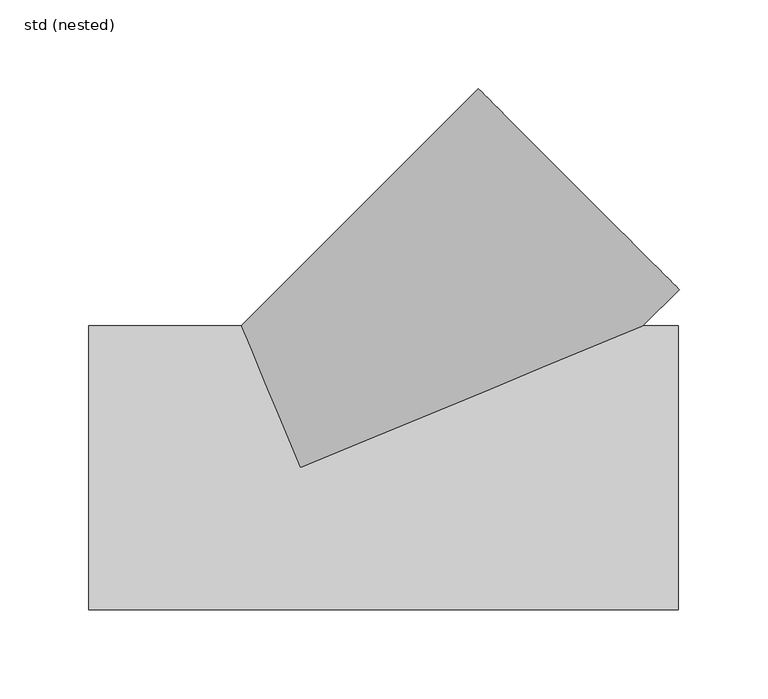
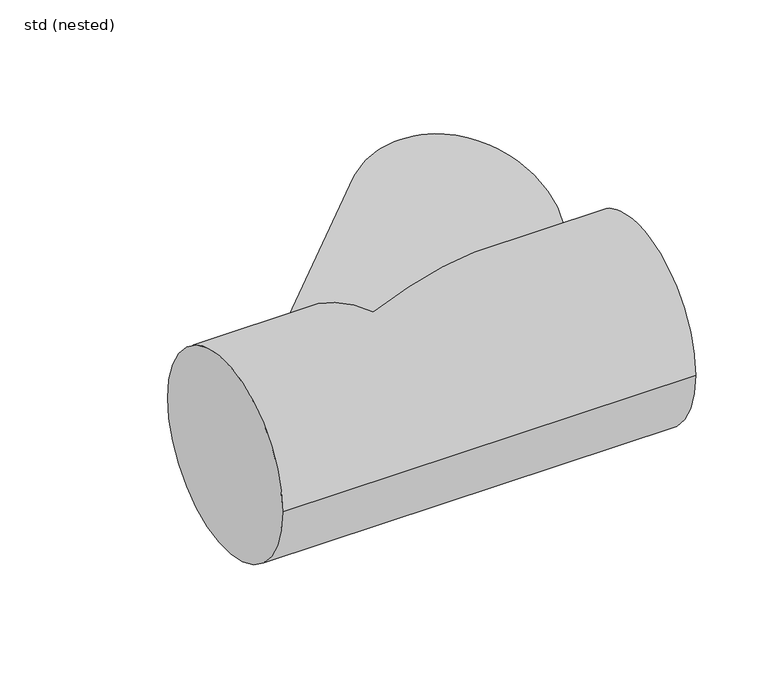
"""IFC4 building model written with IfcOpenShell, lengths in millimetres: pipe fitting geometry, ZZZ_do not use_PIF_ST_UN_ACO pipe branch_ACO : std (nested)."""

import ifcopenshell
import ifcopenshell.guid

model = None  # the IFC model being written
_history = None  # IfcOwnerHistory: only IFC2X3 demands one
_inside = {}  # id of a spatial element -> (the spatial element, [elements in it])
_under = {}  # id of a project, library or spatial element -> (it, [spatial elements below it])
_declared = {}  # id of a project -> (the project, [libraries it declares])
_typed = {}  # id of a type object -> (the type object, [elements of that type])
_made_of = {}  # id of a material, layer set ... -> (it, [elements and type objects made of it])


def new_model(schema):
    """Start an empty IFC model of exactly this schema.

    Asked for "IFC4X3", IfcOpenShell would pick the latest addendum, in which some entities
    have other attributes; the version numbers below select the first issue.
    IFC2X3 requires an IfcOwnerHistory on every rooted entity: one is made here for all.
    """
    global model, _history
    if schema == "IFC4X3":
        model = ifcopenshell.file(schema_version=(4, 3, 0, 0))
    else:
        model = ifcopenshell.file(schema=schema)
    _inside.clear()
    _under.clear()
    _declared.clear()
    _typed.clear()
    _made_of.clear()
    _history = None
    if model.schema == "IFC2X3":
        org = make("IfcOrganization", Name="unknown")
        user = make(
            "IfcPersonAndOrganization",
            ThePerson=make("IfcPerson", FamilyName="unknown"),
            TheOrganization=org,
        )
        app = make(
            "IfcApplication",
            ApplicationDeveloper=org,
            Version="unknown",
            ApplicationFullName="unknown",
            ApplicationIdentifier="unknown",
        )
        _history = make(
            "IfcOwnerHistory",
            OwningUser=user,
            OwningApplication=app,
            ChangeAction="ADDED",
            CreationDate=0,
        )
    return model


def make(cls, **values):
    """One entity of the class cls with the attributes given. An attribute that is None is left unset."""
    return model.create_entity(
        cls, **{name: value for name, value in values.items() if value is not None}
    )


def rooted(cls, **values):
    """An entity with a GlobalId (a new one), such as an element, a storey or a relation."""
    return make(cls, GlobalId=ifcopenshell.guid.new(), OwnerHistory=_history, **values)


def si_unit(unit_type, name, prefix=None):
    """IfcSIUnit, for example si_unit("LENGTHUNIT", "METRE", prefix="MILLI")."""
    return make("IfcSIUnit", UnitType=unit_type, Prefix=prefix, Name=name)


def assignment(units):
    """IfcUnitAssignment: the units of a project."""
    return None if units is None else make("IfcUnitAssignment", Units=units)


def point(xyz):
    """IfcCartesianPoint."""
    return None if xyz is None else make("IfcCartesianPoint", Coordinates=xyz)


def direction(xyz):
    """IfcDirection."""
    return None if xyz is None else make("IfcDirection", DirectionRatios=xyz)


def frame(location, z_axis=None, x_axis=None):
    """IfcAxis2Placement3D, a coordinate frame: its origin and axes. An axis left out is left unset."""
    return make(
        "IfcAxis2Placement3D",
        Location=point(location),
        Axis=direction(z_axis),
        RefDirection=direction(x_axis),
    )


def origin():
    """The frame at (0, 0, 0) with its axes left unset."""
    return frame((0.0, 0.0, 0.0))


def place(relative_to, where):
    """IfcLocalPlacement: puts the frame where relative to a parent placement (None: the world)."""
    return make(
        "IfcLocalPlacement", PlacementRelTo=relative_to, RelativePlacement=where
    )


def context(
    kind, dimensions, precision=None, world=None, true_north=None, identifier=None
):
    """IfcGeometricRepresentationContext, for example the 3D "Model" context."""
    return make(
        "IfcGeometricRepresentationContext",
        ContextIdentifier=identifier,
        ContextType=kind,
        CoordinateSpaceDimension=dimensions,
        Precision=precision,
        WorldCoordinateSystem=world,
        TrueNorth=true_north,
    )


def project(units=None, contexts=None):
    """IfcProject with its units and contexts."""
    return rooted(
        "IfcProject",
        Name="project",
        RepresentationContexts=contexts,
        UnitsInContext=assignment(units),
    )


def spatial(cls, under=None, at=None, **own):
    """A site, building, storey or space (cls), placed at a placement, below another one or the project."""
    s = rooted(cls, ObjectPlacement=at, **own)
    if under is not None:
        _under.setdefault(under.id(), (under, []))[1].append(s)
    return s


def circle_curve(where, radius):
    """IfcCircle in the frame where."""
    return make("IfcCircle", Position=where, Radius=radius)


def ellipse_curve(where, semi_axis1, semi_axis2):
    """IfcEllipse in the frame where."""
    return make(
        "IfcEllipse", Position=where, SemiAxis1=semi_axis1, SemiAxis2=semi_axis2
    )


def shape(context_of_items, identifier, shape_type, items):
    """IfcShapeRepresentation: the items that make up one representation, for example the "Body"."""
    return make(
        "IfcShapeRepresentation",
        ContextOfItems=context_of_items,
        RepresentationIdentifier=identifier,
        RepresentationType=shape_type,
        Items=items,
    )


def source(mapping_origin, context_of_items, identifier, shape_type, items):
    """IfcRepresentationMap: a shape defined once, which mapped items show again and again."""
    return make(
        "IfcRepresentationMap",
        MappingOrigin=mapping_origin,
        MappedRepresentation=shape(context_of_items, identifier, shape_type, items),
    )


def transform(
    local_origin,
    x_axis=None,
    y_axis=None,
    z_axis=None,
    scale=None,
    scale2=None,
    scale3=None,
    uniform=True,
):
    """IfcCartesianTransformationOperator3D, or its non-uniform kind. x_axis, y_axis, z_axis: its Axis1, 2, 3."""
    if uniform:
        return make(
            "IfcCartesianTransformationOperator3D",
            Axis1=direction(x_axis),
            Axis2=direction(y_axis),
            LocalOrigin=point(local_origin),
            Scale=scale,
            Axis3=direction(z_axis),
        )
    return make(
        "IfcCartesianTransformationOperator3DnonUniform",
        Axis1=direction(x_axis),
        Axis2=direction(y_axis),
        LocalOrigin=point(local_origin),
        Scale=scale,
        Axis3=direction(z_axis),
        Scale2=scale2,
        Scale3=scale3,
    )


def mapped(mapping_source, mapping_target):
    """IfcMappedItem: shows the shape of a source again, moved by a transform."""
    return make(
        "IfcMappedItem", MappingSource=mapping_source, MappingTarget=mapping_target
    )


def made_of(thing, what):
    """Note that an element or type object is made of a material, layer set ...; save() writes the relation."""
    if what is not None:
        _made_of.setdefault(what.id(), (what, []))[1].append(thing)
    return thing


def element(
    cls,
    number,
    at=None,
    inside=None,
    cuts=None,
    type_object=None,
    material=None,
    context=None,
    identifier="Body",
    shape_type=None,
    held_by="IfcProductDefinitionShape",
    body=None,
    shapes=None,
    **own,
):
    """One element of the class cls, such as IfcWall. Its Tag is "e" and its number.

    at: its placement. inside: the storey or other place that contains it. cuts: it is an
    opening in that element (IfcRelVoidsElement). A single representation is given by context,
    identifier, shape_type and body (its items); several are given by shapes. held_by: the class
    of the entity that holds the representations. save() writes the other relations.
    """
    e = rooted(cls, Tag="e%d" % number, ObjectPlacement=at, **own)
    if body is not None:
        shapes = [shape(context, identifier, shape_type, body)]
    if shapes is not None:
        e.Representation = make(held_by, Representations=shapes)
    if inside is not None:
        _inside.setdefault(inside.id(), (inside, []))[1].append(e)
    if cuts is not None:
        rooted(
            "IfcRelVoidsElement", RelatingBuildingElement=cuts, RelatedOpeningElement=e
        )
    if type_object is not None:
        _typed.setdefault(type_object.id(), (type_object, []))[1].append(e)
    return made_of(e, material)


def aggregate(whole, parts):
    """IfcRelAggregates: a whole, such as a stair, and the parts it consists of."""
    return rooted("IfcRelAggregates", RelatingObject=whole, RelatedObjects=parts)


def save(model, path):
    """Write the relations noted so far, then the file.

    IfcRelAggregates (storeys below a building ...), IfcRelContainedInSpatialStructure (elements
    in a storey), IfcRelDefinesByType, IfcRelAssociatesMaterial and IfcRelDeclares: one each for
    every whole, place, type object, material and project.
    """
    for whole, parts in _under.values():
        aggregate(whole, parts)
    for where, things in _inside.values():
        rooted(
            "IfcRelContainedInSpatialStructure",
            RelatedElements=things,
            RelatingStructure=where,
        )
    for kind, things in _typed.values():
        rooted("IfcRelDefinesByType", RelatedObjects=things, RelatingType=kind)
    for what, things in _made_of.values():
        rooted("IfcRelAssociatesMaterial", RelatedObjects=things, RelatingMaterial=what)
    for by, libraries in _declared.values():
        rooted("IfcRelDeclares", RelatingContext=by, RelatedDefinitions=libraries)
    model.write(path)


def plane_surface(at):
    """IfcPlane: the flat surface through the origin of the frame at, square to its z axis."""
    return make("IfcPlane", Position=at)


def cylinder_surface(at, radius):
    """IfcCylindricalSurface: all points at the distance radius from the z axis of the frame at."""
    return make("IfcCylindricalSurface", Position=at, Radius=radius)


def advanced_brep(points, edges, surfaces, faces):
    """IfcAdvancedBrep: a solid bounded by faces that lie on surfaces and meet in shared edges.

    An edge is (start, end): straight between two places in points (the first is 0);
    or (start, end, curve); or (start, end, curve, False) where it runs against its curve.
    A face is (place in surfaces, loops), or (place, loops, False) where it looks against
    its surface's normal. A loop lists edges by number (the first is 1), with a minus sign
    where the edge is run from its end to its start. The first loop is the outer one.
    """
    corners = [point(p) for p in points]
    vertices = [make("IfcVertexPoint", VertexGeometry=c) for c in corners]
    made = []
    for start, end, *more in edges:
        made.append(
            make(
                "IfcEdgeCurve",
                EdgeStart=vertices[start],
                EdgeEnd=vertices[end],
                EdgeGeometry=more[0] if more else make("IfcPolyline", Points=[corners[start], corners[end]]),
                SameSense=more[1] if len(more) > 1 else True,
            )
        )
    hull = []
    for where, loops, *sense in faces:
        bounds = []
        for j, loop in enumerate(loops):
            ring = [make("IfcOrientedEdge", EdgeElement=made[abs(k) - 1], Orientation=k > 0) for k in loop]
            bounds.append(
                make(
                    "IfcFaceOuterBound" if j == 0 else "IfcFaceBound",
                    Bound=make("IfcEdgeLoop", EdgeList=ring),
                    Orientation=True,
                )
            )
        hull.append(make("IfcAdvancedFace", Bounds=bounds, FaceSurface=surfaces[where], SameSense=sense[0] if sense else True))
    return make("IfcAdvancedBrep", Outer=make("IfcClosedShell", CfsFaces=hull))


def std_nested_beb749c0(model_context):
    return source(origin(), model_context, "Body", "AdvancedBrep", [
        advanced_brep(
        [(213.0, -80.0, 0.0), (213.0, 80.0, 0.0), (-119.0, -80.0, 0.0), (-119.0, 80.0, 0.0), (-33.1354267, 80.0, 0.0), (0.0, 0.0, -80.0), (193.1467506, 80.0, 0.0), (0.0, 0.0, 80.0), (213.5498008, 100.4016064, 0.0), (100.4167194, 213.5426947, 0.0)],
        [
            (0, 1, circle_curve(frame((213.0, 0.0, 0.0), z_axis=(1.0, 0.0, 0.0), x_axis=(0.0, 1.0, 0.0)), 80.0)),
            (1, 0, circle_curve(frame((213.0, 0.0, 0.0), z_axis=(1.0, 0.0, 0.0), x_axis=(0.0, 1.0, 0.0)), 80.0)),
            (2, 3, circle_curve(frame((-119.0, 0.0, 0.0), z_axis=(-1.0, 0.0, 0.0), x_axis=(0.0, 1.0, 0.0)), 80.0)),
            (3, 2, circle_curve(frame((-119.0, 0.0, 0.0), z_axis=(-1.0, 0.0, 0.0), x_axis=(0.0, 1.0, 0.0)), 80.0)),
            (0, 2),
            (3, 4),
            (4, 5, ellipse_curve(frame((0.0, 0.0, 0.0), z_axis=(-0.9238863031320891, -0.3826670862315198, 0.0), x_axis=(0.38266708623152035, -0.923886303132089, 0.0)), 86.5907414, 80.0)),
            (5, 6, ellipse_curve(frame((0.0, 0.0, 0.0), z_axis=(0.3826670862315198, -0.9238863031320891, 0.0), x_axis=(0.9238863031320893, 0.3826670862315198, 0.0)), 209.0590042, 80.0)),
            (6, 1),
            (6, 7, ellipse_curve(frame((0.0, 0.0, 0.0), z_axis=(0.3826670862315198, -0.9238863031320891, 0.0), x_axis=(0.9238863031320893, 0.3826670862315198, 0.0)), 209.0590042, 80.0)),
            (7, 4, ellipse_curve(frame((0.0, 0.0, 0.0), z_axis=(-0.9238863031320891, -0.3826670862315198, 0.0), x_axis=(0.38266708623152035, -0.923886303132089, 0.0)), 86.5907414, 80.0)),
            (8, 9, circle_curve(frame((156.9832601, 156.9721506, 0.0), z_axis=(0.7071318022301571, 0.7070817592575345, 0.0), x_axis=(-0.7070817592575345, 0.7071318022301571, 0.0)), 80.0)),
            (9, 8, circle_curve(frame((156.9832601, 156.9721506, 0.0), z_axis=(0.7071318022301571, 0.7070817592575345, 0.0), x_axis=(-0.7070817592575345, 0.7071318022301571, 0.0)), 80.0)),
            (9, 4),
            (6, 8),
        ],
        [
            plane_surface(frame((213.0, 80.0, 0.0), z_axis=(1.0, 0.0, 0.0), x_axis=(0.0, 0.0, 1.0))),
            plane_surface(frame((-119.0, 80.0, 0.0), z_axis=(-1.0, 0.0, 0.0), x_axis=(0.0, 0.0, -1.0))),
            cylinder_surface(frame((-119.0, 0.0, 0.0), z_axis=(1.0, 0.0, 0.0), x_axis=(0.0, 1.0, 0.0)), 80.0),
            plane_surface(frame((156.9832601, 156.9721506, 0.0), z_axis=(0.7071318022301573, 0.7070817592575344, 0.0), x_axis=(0.0, 0.0, 1.0))),
            cylinder_surface(frame((0.0, 0.0, 0.0), z_axis=(-0.7071318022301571, -0.7070817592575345, 0.0), x_axis=(-0.7070817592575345, 0.7071318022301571, 0.0)), 80.0),
        ],
        [
            (0, [[1, 2]]),
            (1, [[3, 4]]),
            (2, [[-1, 5, -4, 6, 7, 8, 9]]),
            (2, [[-2, -9, 10, 11, -6, -3, -5]]),
            (3, [[12, 13]]),
            (4, [[-13, 14, -11, -10, 15]]),
            (4, [[-12, -15, -8, -7, -14]]),
        ],
    ),
    ])


if __name__ == "__main__":
    model = new_model("IFC4")
    model_context = context("Model", 3, world=origin())
    ifc_project = project(units=[si_unit("LENGTHUNIT", "METRE", prefix="MILLI")], contexts=[model_context])
    site = spatial("IfcSite", under=ifc_project)
    building = spatial("IfcBuilding", under=site)
    placement = place(None, origin())
    std_nested_shape = std_nested_beb749c0(model_context)
    element("IfcPipeFitting", 1, ObjectType="ZZZ_do not use_PIF_ST_UN_ACO pipe branch_ACO : std (nested)", at=placement, inside=building, context=model_context, shape_type="MappedRepresentation", body=[
        mapped(std_nested_shape, transform((0.0, 0.0, 0.0), x_axis=(1.0, 0.0, 0.0), y_axis=(0.0, 1.0, 0.0), z_axis=(0.0, 0.0, 1.0))),
    ])
    save(model, "model.ifc")
